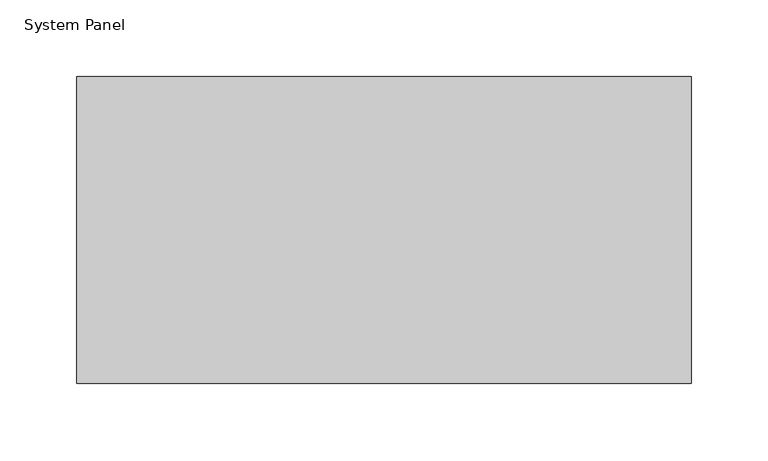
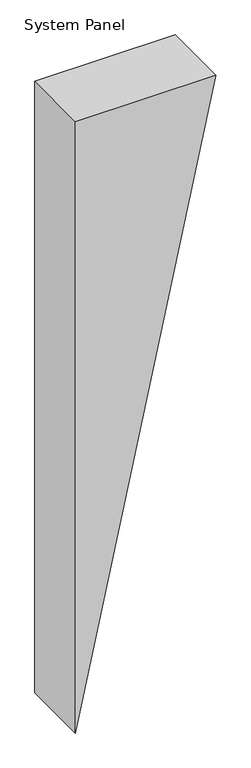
"""IFC4 building model written with IfcOpenShell, lengths in millimetres: plate geometry, System Panel : MetecnoPanel 200mm Vertical - Plain Astro - PIR."""

import ifcopenshell
import ifcopenshell.guid

model = None  # the IFC model being written
_history = None  # IfcOwnerHistory: only IFC2X3 demands one
_inside = {}  # id of a spatial element -> (the spatial element, [elements in it])
_under = {}  # id of a project, library or spatial element -> (it, [spatial elements below it])
_declared = {}  # id of a project -> (the project, [libraries it declares])
_typed = {}  # id of a type object -> (the type object, [elements of that type])
_made_of = {}  # id of a material, layer set ... -> (it, [elements and type objects made of it])


def new_model(schema):
    """Start an empty IFC model of exactly this schema.

    Asked for "IFC4X3", IfcOpenShell would pick the latest addendum, in which some entities
    have other attributes; the version numbers below select the first issue.
    IFC2X3 requires an IfcOwnerHistory on every rooted entity: one is made here for all.
    """
    global model, _history
    if schema == "IFC4X3":
        model = ifcopenshell.file(schema_version=(4, 3, 0, 0))
    else:
        model = ifcopenshell.file(schema=schema)
    _inside.clear()
    _under.clear()
    _declared.clear()
    _typed.clear()
    _made_of.clear()
    _history = None
    if model.schema == "IFC2X3":
        org = make("IfcOrganization", Name="unknown")
        user = make(
            "IfcPersonAndOrganization",
            ThePerson=make("IfcPerson", FamilyName="unknown"),
            TheOrganization=org,
        )
        app = make(
            "IfcApplication",
            ApplicationDeveloper=org,
            Version="unknown",
            ApplicationFullName="unknown",
            ApplicationIdentifier="unknown",
        )
        _history = make(
            "IfcOwnerHistory",
            OwningUser=user,
            OwningApplication=app,
            ChangeAction="ADDED",
            CreationDate=0,
        )
    return model


def make(cls, **values):
    """One entity of the class cls with the attributes given. An attribute that is None is left unset."""
    return model.create_entity(
        cls, **{name: value for name, value in values.items() if value is not None}
    )


def rooted(cls, **values):
    """An entity with a GlobalId (a new one), such as an element, a storey or a relation."""
    return make(cls, GlobalId=ifcopenshell.guid.new(), OwnerHistory=_history, **values)


def si_unit(unit_type, name, prefix=None):
    """IfcSIUnit, for example si_unit("LENGTHUNIT", "METRE", prefix="MILLI")."""
    return make("IfcSIUnit", UnitType=unit_type, Prefix=prefix, Name=name)


def assignment(units):
    """IfcUnitAssignment: the units of a project."""
    return None if units is None else make("IfcUnitAssignment", Units=units)


def point(xyz):
    """IfcCartesianPoint."""
    return None if xyz is None else make("IfcCartesianPoint", Coordinates=xyz)


def direction(xyz):
    """IfcDirection."""
    return None if xyz is None else make("IfcDirection", DirectionRatios=xyz)


def frame(location, z_axis=None, x_axis=None):
    """IfcAxis2Placement3D, a coordinate frame: its origin and axes. An axis left out is left unset."""
    return make(
        "IfcAxis2Placement3D",
        Location=point(location),
        Axis=direction(z_axis),
        RefDirection=direction(x_axis),
    )


def origin():
    """The frame at (0, 0, 0) with its axes left unset."""
    return frame((0.0, 0.0, 0.0))


def place(relative_to, where):
    """IfcLocalPlacement: puts the frame where relative to a parent placement (None: the world)."""
    return make(
        "IfcLocalPlacement", PlacementRelTo=relative_to, RelativePlacement=where
    )


def context(
    kind, dimensions, precision=None, world=None, true_north=None, identifier=None
):
    """IfcGeometricRepresentationContext, for example the 3D "Model" context."""
    return make(
        "IfcGeometricRepresentationContext",
        ContextIdentifier=identifier,
        ContextType=kind,
        CoordinateSpaceDimension=dimensions,
        Precision=precision,
        WorldCoordinateSystem=world,
        TrueNorth=true_north,
    )


def project(units=None, contexts=None):
    """IfcProject with its units and contexts."""
    return rooted(
        "IfcProject",
        Name="project",
        RepresentationContexts=contexts,
        UnitsInContext=assignment(units),
    )


def spatial(cls, under=None, at=None, **own):
    """A site, building, storey or space (cls), placed at a placement, below another one or the project."""
    s = rooted(cls, ObjectPlacement=at, **own)
    if under is not None:
        _under.setdefault(under.id(), (under, []))[1].append(s)
    return s


def polyline(points):
    """IfcPolyline through the points."""
    return make("IfcPolyline", Points=[point(p) for p in points])


def outline(outer, holes=None, kind="AREA"):
    """IfcArbitraryClosedProfileDef: a profile drawn as a closed curve; with holes, ...WithVoids."""
    if holes is None:
        return make("IfcArbitraryClosedProfileDef", ProfileType=kind, OuterCurve=outer)
    return make(
        "IfcArbitraryProfileDefWithVoids",
        ProfileType=kind,
        OuterCurve=outer,
        InnerCurves=holes,
    )


def extrude(swept, where, along, depth):
    """IfcExtrudedAreaSolid: the profile swept, set in the frame where, extruded along a direction by depth."""
    return make(
        "IfcExtrudedAreaSolid",
        SweptArea=swept,
        Position=where,
        ExtrudedDirection=direction(along),
        Depth=depth,
    )


def shape(context_of_items, identifier, shape_type, items):
    """IfcShapeRepresentation: the items that make up one representation, for example the "Body"."""
    return make(
        "IfcShapeRepresentation",
        ContextOfItems=context_of_items,
        RepresentationIdentifier=identifier,
        RepresentationType=shape_type,
        Items=items,
    )


def source(mapping_origin, context_of_items, identifier, shape_type, items):
    """IfcRepresentationMap: a shape defined once, which mapped items show again and again."""
    return make(
        "IfcRepresentationMap",
        MappingOrigin=mapping_origin,
        MappedRepresentation=shape(context_of_items, identifier, shape_type, items),
    )


def transform(
    local_origin,
    x_axis=None,
    y_axis=None,
    z_axis=None,
    scale=None,
    scale2=None,
    scale3=None,
    uniform=True,
):
    """IfcCartesianTransformationOperator3D, or its non-uniform kind. x_axis, y_axis, z_axis: its Axis1, 2, 3."""
    if uniform:
        return make(
            "IfcCartesianTransformationOperator3D",
            Axis1=direction(x_axis),
            Axis2=direction(y_axis),
            LocalOrigin=point(local_origin),
            Scale=scale,
            Axis3=direction(z_axis),
        )
    return make(
        "IfcCartesianTransformationOperator3DnonUniform",
        Axis1=direction(x_axis),
        Axis2=direction(y_axis),
        LocalOrigin=point(local_origin),
        Scale=scale,
        Axis3=direction(z_axis),
        Scale2=scale2,
        Scale3=scale3,
    )


def mapped(mapping_source, mapping_target):
    """IfcMappedItem: shows the shape of a source again, moved by a transform."""
    return make(
        "IfcMappedItem", MappingSource=mapping_source, MappingTarget=mapping_target
    )


def made_of(thing, what):
    """Note that an element or type object is made of a material, layer set ...; save() writes the relation."""
    if what is not None:
        _made_of.setdefault(what.id(), (what, []))[1].append(thing)
    return thing


def element(
    cls,
    number,
    at=None,
    inside=None,
    cuts=None,
    type_object=None,
    material=None,
    context=None,
    identifier="Body",
    shape_type=None,
    held_by="IfcProductDefinitionShape",
    body=None,
    shapes=None,
    **own,
):
    """One element of the class cls, such as IfcWall. Its Tag is "e" and its number.

    at: its placement. inside: the storey or other place that contains it. cuts: it is an
    opening in that element (IfcRelVoidsElement). A single representation is given by context,
    identifier, shape_type and body (its items); several are given by shapes. held_by: the class
    of the entity that holds the representations. save() writes the other relations.
    """
    e = rooted(cls, Tag="e%d" % number, ObjectPlacement=at, **own)
    if body is not None:
        shapes = [shape(context, identifier, shape_type, body)]
    if shapes is not None:
        e.Representation = make(held_by, Representations=shapes)
    if inside is not None:
        _inside.setdefault(inside.id(), (inside, []))[1].append(e)
    if cuts is not None:
        rooted(
            "IfcRelVoidsElement", RelatingBuildingElement=cuts, RelatedOpeningElement=e
        )
    if type_object is not None:
        _typed.setdefault(type_object.id(), (type_object, []))[1].append(e)
    return made_of(e, material)


def aggregate(whole, parts):
    """IfcRelAggregates: a whole, such as a stair, and the parts it consists of."""
    return rooted("IfcRelAggregates", RelatingObject=whole, RelatedObjects=parts)


def save(model, path):
    """Write the relations noted so far, then the file.

    IfcRelAggregates (storeys below a building ...), IfcRelContainedInSpatialStructure (elements
    in a storey), IfcRelDefinesByType, IfcRelAssociatesMaterial and IfcRelDeclares: one each for
    every whole, place, type object, material and project.
    """
    for whole, parts in _under.values():
        aggregate(whole, parts)
    for where, things in _inside.values():
        rooted(
            "IfcRelContainedInSpatialStructure",
            RelatedElements=things,
            RelatingStructure=where,
        )
    for kind, things in _typed.values():
        rooted("IfcRelDefinesByType", RelatedObjects=things, RelatingType=kind)
    for what, things in _made_of.values():
        rooted("IfcRelAssociatesMaterial", RelatedObjects=things, RelatingMaterial=what)
    for by, libraries in _declared.values():
        rooted("IfcRelDeclares", RelatingContext=by, RelatedDefinitions=libraries)
    model.write(path)


def system_panel_d4aeffd6(model_context):
    return source(origin(), model_context, "Body", "SweptSolid", [
        extrude(outline(polyline([(1839.9852118, -200.0), (0.0, -200.0), (1839.9852118, 200.0), (1839.9852118, -200.0)])), frame((0.0, -200.0, 0.0), z_axis=(0.0, 1.0, 0.0), x_axis=(0.0, 0.0, 1.0)), (0.0, 0.0, 1.0), 200.0),
    ])


if __name__ == "__main__":
    model = new_model("IFC4")
    model_context = context("Model", 3, world=origin())
    ifc_project = project(units=[si_unit("LENGTHUNIT", "METRE", prefix="MILLI")], contexts=[model_context])
    site = spatial("IfcSite", under=ifc_project)
    building = spatial("IfcBuilding", under=site)
    placement = place(None, origin())
    system_panel_shape = system_panel_d4aeffd6(model_context)
    element("IfcPlate", 1, ObjectType="System Panel : MetecnoPanel 200mm Vertical - Plain Astro - PIR", at=placement, inside=building, context=model_context, shape_type="MappedRepresentation", body=[
        mapped(system_panel_shape, transform((0.0, 0.0, 0.0), x_axis=(1.0, 0.0, 0.0), y_axis=(0.0, 1.0, 0.0), z_axis=(0.0, 0.0, 1.0))),
    ])
    save(model, "model.ifc")
